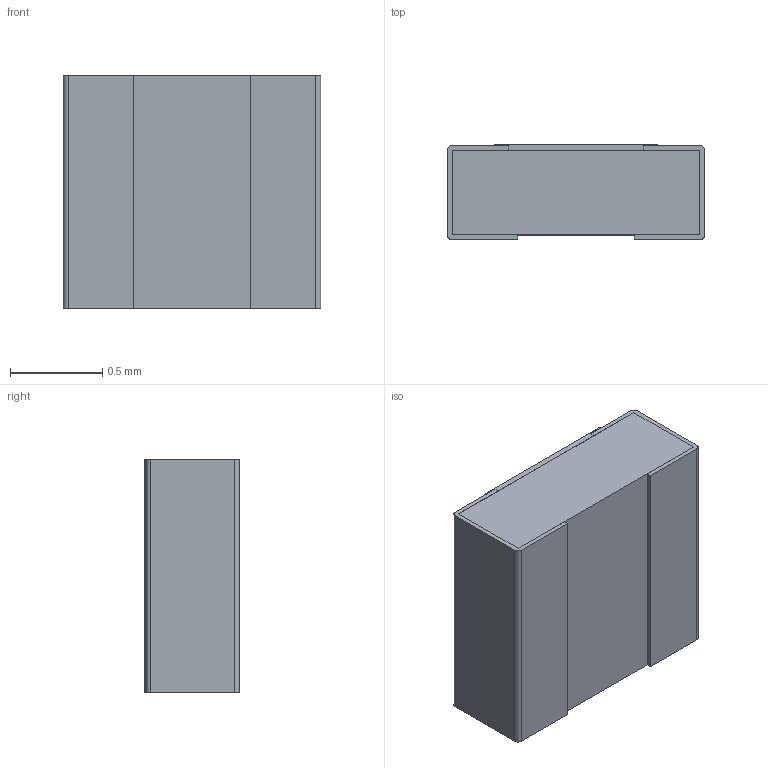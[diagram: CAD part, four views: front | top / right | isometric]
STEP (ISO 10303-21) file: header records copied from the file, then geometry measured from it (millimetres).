
FILE_DESCRIPTION(/* description */ (''),/* implementation_level */ '2;1');
FILE_NAME(/* name */ 'C:\Users\Public\Documents\Autodesk\Inventor LT 2014\Workspace\Vishay\STEP Files\M55342-02.stp',/* time_stamp */ '2019-09-11T15:08:54-05:00',/* author */ ('Neil'),/* organization */ (''),/* preprocessor_version */ 'ST-DEVELOPER v15.2',/* originating_system */ 'Autodesk Inventor LT ',/* authorisation */ '');
FILE_SCHEMA (('AUTOMOTIVE_DESIGN { 1 0 10303 214 3 1 1 }'));
Length unit declared in the file: inch
Products named in the file (1): M55342-02
Bounding box: 1.4 x 0.52 x 1.27 mm (x, y, z)
Volume: 0.9 mm3; surface area: 15.8 mm2
Topology: 5 solids, 5 shells, 50 faces, 120 edges, 80 vertices
Faces by surface type: plane 46, cylinder 4
Entity records: 1482 total; most frequent: CARTESIAN_POINT 251, ORIENTED_EDGE 240, DIRECTION 230, EDGE_CURVE 120, LINE 112, VECTOR 112, VERTEX_POINT 80, AXIS2_PLACEMENT_3D 59
